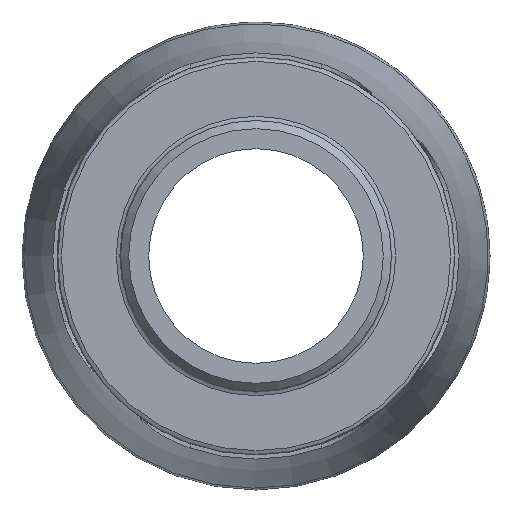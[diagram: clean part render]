
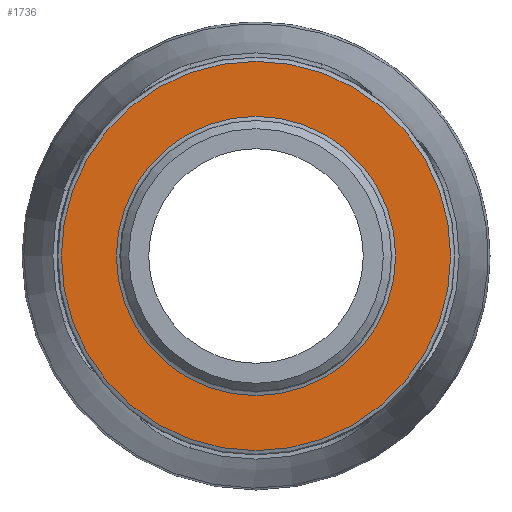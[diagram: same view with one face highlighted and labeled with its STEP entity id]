
A CAD part, left-side view. The second image highlights one B-rep face of the part: STEP entity #1736.
In plain terms, the highlighted planar face has unit normal (-1, 0, 0).
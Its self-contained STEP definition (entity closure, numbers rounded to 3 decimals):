
#294=PLANE('',#1910);
#388=FACE_BOUND('',#552,.T.);
#432=FACE_OUTER_BOUND('',#551,.T.);
#551=EDGE_LOOP('',(#1374));
#552=EDGE_LOOP('',(#1375));
#688=CIRCLE('',#1909,30.732);
#689=CIRCLE('',#1911,42.85);
#814=VERTEX_POINT('',#3085);
#815=VERTEX_POINT('',#3088);
#1016=EDGE_CURVE('',#814,#814,#688,.T.);
#1017=EDGE_CURVE('',#815,#815,#689,.T.);
#1374=ORIENTED_EDGE('',*,*,#1017,.F.);
#1375=ORIENTED_EDGE('',*,*,#1016,.F.);
#1736=ADVANCED_FACE('',(#432,#388),#294,.T.);
#1909=AXIS2_PLACEMENT_3D('',#3086,#2243,#2244);
#1910=AXIS2_PLACEMENT_3D('',#3087,#2245,#2246);
#1911=AXIS2_PLACEMENT_3D('',#3089,#2247,#2248);
#2243=DIRECTION('center_axis',(-1.,0.,0.));
#2244=DIRECTION('ref_axis',(0.,-1.,0.));
#2245=DIRECTION('center_axis',(-1.,0.,0.));
#2246=DIRECTION('ref_axis',(0.,0.,1.));
#2247=DIRECTION('center_axis',(1.,0.,0.));
#2248=DIRECTION('ref_axis',(0.,-1.,0.));
#3085=CARTESIAN_POINT('',(25.,30.732,0.));
#3086=CARTESIAN_POINT('Origin',(25.,0.,0.));
#3087=CARTESIAN_POINT('Origin',(25.,43.775,0.));
#3088=CARTESIAN_POINT('',(25.,42.85,0.));
#3089=CARTESIAN_POINT('Origin',(25.,0.,0.));
